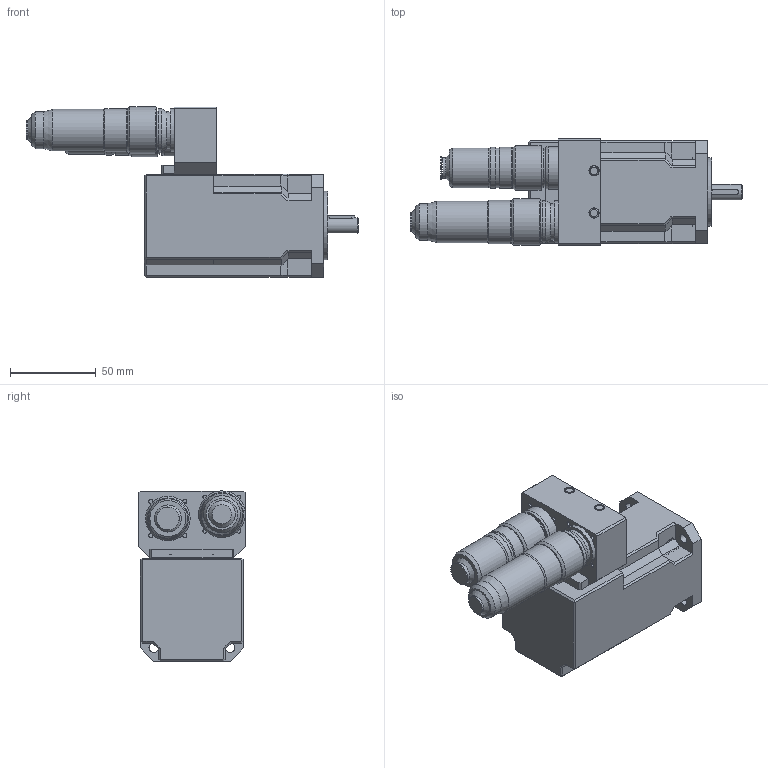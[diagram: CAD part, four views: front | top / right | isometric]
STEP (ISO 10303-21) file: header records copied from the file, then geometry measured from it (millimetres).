
FILE_DESCRIPTION((''),'2;1');
FILE_NAME('Z:\Documentazione\Disegni_Meccanici_MOTORI_(3D)\SMB\60\stp\SMB60-0,55-8-9-2ID-3D.stp','2010-10-04T13:28:01',('fm025178'),(''),'Autodesk Inventor 2010','Autodesk Inventor 2010','');
FILE_SCHEMA(('AUTOMOTIVE_DESIGN { 1 0 10303 214 1 1 1 1 }'));
Length unit declared in the file: millimetre
Products named in the file (1): Part1
Bounding box: 193.5 x 62.1 x 99.23 mm (x, y, z)
Volume: 262065.2 mm3; surface area: 86091.3 mm2
Topology: 3 solids, 3 shells, 439 faces, 1059 edges, 660 vertices
Faces by surface type: plane 200, cylinder 128, bspline 69, cone 30, torus 12
Full cylindrical faces by diameter (mm): 2.387 x8, 3 x6, 3.5 x4, 5.5 x4, 6 x4, 9 x1, 11.207 x1, 11.977 x1, 12 x1, 13.472 x1, 15 x1, 19.8 x1, 20 x1, 20.5 x1, 21.5 x1, 21.522 x1, 22.5 x1, 23 x3, 24 x2, 24.2 x1, 25 x3, 25.2 x1, 26 x1, 27.2 x1, 28 x1, 32 x2, 40 x1, 50.5 x1, 53.421 x1, 54.5 x1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
Entity records: 13789 total; most frequent: CARTESIAN_POINT 3955, DIRECTION 2092, ORIENTED_EDGE 1876, EDGE_CURVE 938, AXIS2_PLACEMENT_3D 823, VERTEX_POINT 648, EDGE_LOOP 598, CIRCLE 452
